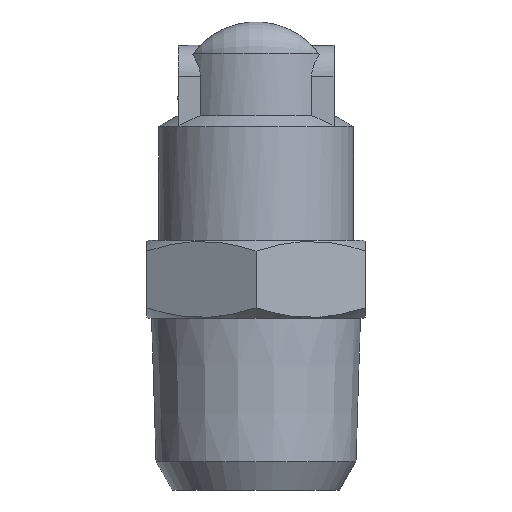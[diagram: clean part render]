
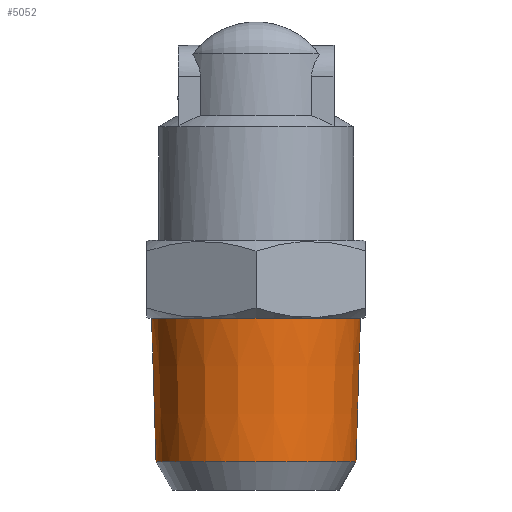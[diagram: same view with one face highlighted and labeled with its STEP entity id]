
A CAD part, left-side view. The second image highlights one B-rep face of the part: STEP entity #5052.
In plain terms, the highlighted conical face has half-angle 1.79 degrees and reference radius 6.694 mm.
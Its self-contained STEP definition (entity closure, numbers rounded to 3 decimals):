
#1403=CONICAL_SURFACE('',#4917,6.694,1.79);
#1448=CIRCLE('',#4916,6.694);
#1449=CIRCLE('',#4918,6.407);
#1639=ORIENTED_EDGE('',*,*,#1917,.F.);
#1640=ORIENTED_EDGE('',*,*,#1916,.F.);
#1799=VERTEX_POINT('',#4716);
#1800=VERTEX_POINT('',#4719);
#1916=EDGE_CURVE('',#1799,#1799,#1448,.T.);
#1917=EDGE_CURVE('',#1800,#1800,#1449,.T.);
#2021=EDGE_LOOP('',(#1639));
#2022=EDGE_LOOP('',(#1640));
#2147=FACE_BOUND('',#2021,.T.);
#2148=FACE_BOUND('',#2022,.T.);
#2417=DIRECTION('',(0.,1.,0.));
#2418=DIRECTION('',(0.,0.,-6.694));
#2419=DIRECTION('',(0.,1.,0.));
#2420=DIRECTION('',(0.,0.,1.));
#2421=DIRECTION('',(0.,-1.,0.));
#2422=DIRECTION('',(0.,0.,6.407));
#4716=CARTESIAN_POINT('',(19.926,20.044,-6.694));
#4717=CARTESIAN_POINT('',(19.926,20.044,0.));
#4718=CARTESIAN_POINT('',(19.926,20.044,0.));
#4719=CARTESIAN_POINT('',(19.926,10.844,6.407));
#4720=CARTESIAN_POINT('',(19.926,10.844,0.));
#4916=AXIS2_PLACEMENT_3D('',#4717,#2417,#2418);
#4917=AXIS2_PLACEMENT_3D('',#4718,#2419,#2420);
#4918=AXIS2_PLACEMENT_3D('',#4720,#2421,#2422);
#5052=ADVANCED_FACE('',(#2147,#2148),#1403,.T.);
